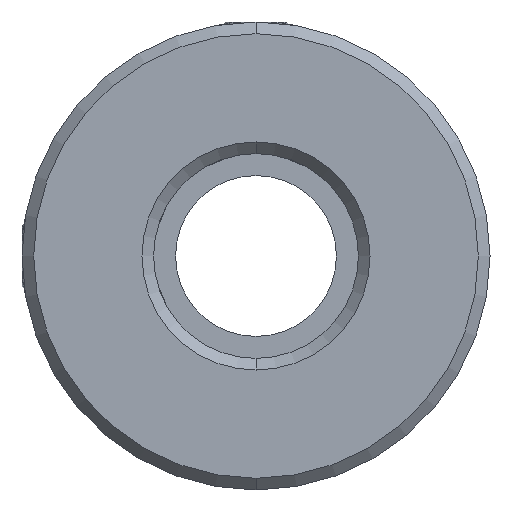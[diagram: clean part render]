
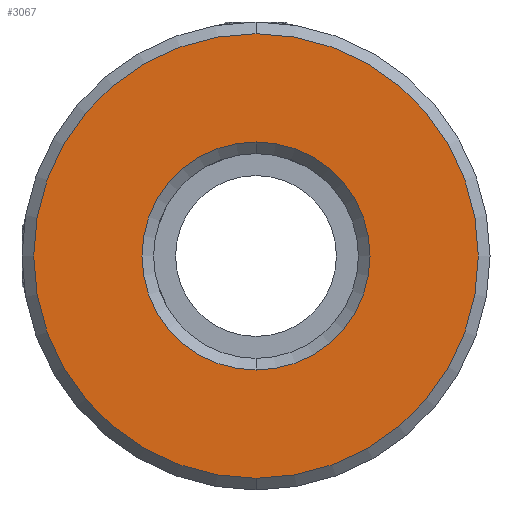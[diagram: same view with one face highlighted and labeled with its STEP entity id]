
A CAD part, front view. The second image highlights one B-rep face of the part: STEP entity #3067.
In plain terms, the highlighted planar face has unit normal (0, -1, 0).
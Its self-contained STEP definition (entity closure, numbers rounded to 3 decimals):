
#96 = ORIENTED_EDGE ( 'NONE', *, *, #2435, .T. ) ;
#97 = AXIS2_PLACEMENT_3D ( 'NONE', #3349, #3060, #2517 ) ;
#187 = CARTESIAN_POINT ( 'NONE',  ( -10.188, -0.277, 7.846 ) ) ;
#202 = CIRCLE ( 'NONE', #2309, 15.2 ) ;
#429 = CARTESIAN_POINT ( 'NONE',  ( -10.188, -0.277, -7.754 ) ) ;
#491 = DIRECTION ( 'NONE',  ( 0., 0., 1. ) ) ;
#540 = CIRCLE ( 'NONE', #2670, 7.8 ) ;
#553 = DIRECTION ( 'NONE',  ( 0., 0., 1. ) ) ;
#570 = DIRECTION ( 'NONE',  ( 0., 1., 0. ) ) ;
#581 = CARTESIAN_POINT ( 'NONE',  ( -10.188, -0.277, 0.046 ) ) ;
#609 = DIRECTION ( 'NONE',  ( 0., -1., 0. ) ) ;
#642 = DIRECTION ( 'NONE',  ( 0., 0., 1. ) ) ;
#647 = CIRCLE ( 'NONE', #2312, 7.8 ) ;
#813 = FACE_OUTER_BOUND ( 'NONE', #1179, .T. ) ;
#831 = FACE_BOUND ( 'NONE', #1635, .T. ) ;
#977 = EDGE_CURVE ( 'NONE', #2506, #3606, #540, .T. ) ;
#1110 = ORIENTED_EDGE ( 'NONE', *, *, #3016, .T. ) ;
#1179 = EDGE_LOOP ( 'NONE', ( #3061, #96 ) ) ;
#1180 = VERTEX_POINT ( 'NONE', #1637 ) ;
#1329 = ORIENTED_EDGE ( 'NONE', *, *, #977, .T. ) ;
#1416 = CARTESIAN_POINT ( 'NONE',  ( -10.188, -0.277, 0.046 ) ) ;
#1635 = EDGE_LOOP ( 'NONE', ( #1110, #1329 ) ) ;
#1637 = CARTESIAN_POINT ( 'NONE',  ( -10.188, -0.277, -15.154 ) ) ;
#1779 = CIRCLE ( 'NONE', #97, 15.2 ) ;
#2309 = AXIS2_PLACEMENT_3D ( 'NONE', #3485, #609, #642 ) ;
#2312 = AXIS2_PLACEMENT_3D ( 'NONE', #3725, #3440, #553 ) ;
#2435 = EDGE_CURVE ( 'NONE', #1180, #3339, #1779, .T. ) ;
#2506 = VERTEX_POINT ( 'NONE', #187 ) ;
#2517 = DIRECTION ( 'NONE',  ( 0., 0., 1. ) ) ;
#2670 = AXIS2_PLACEMENT_3D ( 'NONE', #581, #2900, #491 ) ;
#2677 = CARTESIAN_POINT ( 'NONE',  ( -10.188, -0.277, 15.246 ) ) ;
#2896 = EDGE_CURVE ( 'NONE', #3339, #1180, #202, .T. ) ;
#2900 = DIRECTION ( 'NONE',  ( 0., 1., 0. ) ) ;
#3016 = EDGE_CURVE ( 'NONE', #3606, #2506, #647, .T. ) ;
#3060 = DIRECTION ( 'NONE',  ( 0., -1., 0. ) ) ;
#3061 = ORIENTED_EDGE ( 'NONE', *, *, #2896, .T. ) ;
#3066 = AXIS2_PLACEMENT_3D ( 'NONE', #1416, #570, #3679 ) ;
#3067 = ADVANCED_FACE ( 'NONE', ( #813, #831 ), #3153, .F. ) ;
#3153 = PLANE ( 'NONE',  #3066 ) ;
#3339 = VERTEX_POINT ( 'NONE', #2677 ) ;
#3349 = CARTESIAN_POINT ( 'NONE',  ( -10.188, -0.277, 0.046 ) ) ;
#3440 = DIRECTION ( 'NONE',  ( 0., 1., 0. ) ) ;
#3485 = CARTESIAN_POINT ( 'NONE',  ( -10.188, -0.277, 0.046 ) ) ;
#3606 = VERTEX_POINT ( 'NONE', #429 ) ;
#3679 = DIRECTION ( 'NONE',  ( 0., 0., 1. ) ) ;
#3725 = CARTESIAN_POINT ( 'NONE',  ( -10.188, -0.277, 0.046 ) ) ;
